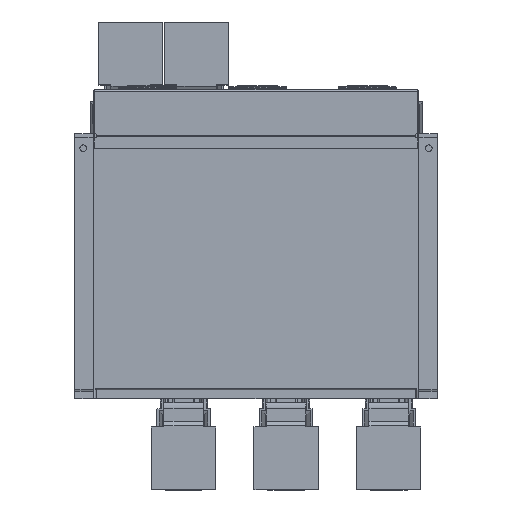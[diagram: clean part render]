
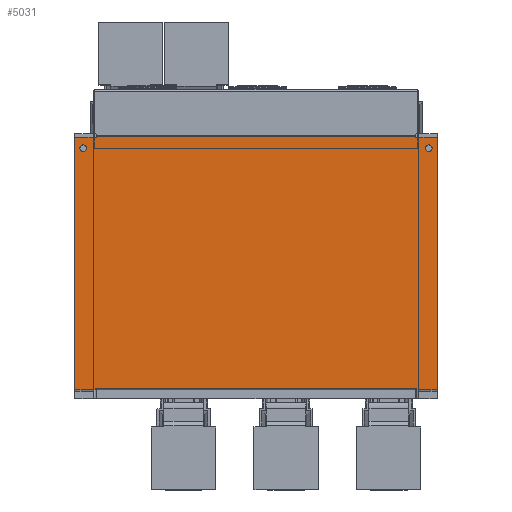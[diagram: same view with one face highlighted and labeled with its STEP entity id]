
A CAD part, top view. The second image highlights one B-rep face of the part: STEP entity #5031.
In plain terms, the highlighted planar face has unit normal (0, 0, 1).
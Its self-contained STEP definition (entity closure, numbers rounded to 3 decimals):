
#4556=DIRECTION('',(0.,1.,0.));
#4557=VECTOR('',#4556,2.);
#4558=CARTESIAN_POINT('',(219.4,-181.,-78.5));
#4559=LINE('',#4558,#4557);
#4560=CARTESIAN_POINT('',(218.9,-179.,-78.5));
#4561=DIRECTION('',(0.,0.,1.));
#4562=DIRECTION('',(1.,0.,0.));
#4563=AXIS2_PLACEMENT_3D('',#4560,#4561,#4562);
#4565=CARTESIAN_POINT('',(-218.9,-179.,-78.5));
#4566=DIRECTION('',(0.,0.,1.));
#4567=DIRECTION('',(1.,0.,0.));
#4568=AXIS2_PLACEMENT_3D('',#4565,#4566,#4567);
#4570=DIRECTION('',(0.,-1.,0.));
#4571=VECTOR('',#4570,2.);
#4572=CARTESIAN_POINT('',(-219.4,-179.,-78.5));
#4573=LINE('',#4572,#4571);
#4574=DIRECTION('',(-1.,0.,0.));
#4575=VECTOR('',#4574,2.4);
#4576=CARTESIAN_POINT('',(-219.4,-181.,-78.5));
#4577=LINE('',#4576,#4575);
#4578=DIRECTION('',(1.,0.,0.));
#4579=VECTOR('',#4578,29.25);
#4580=CARTESIAN_POINT('',(-247.5,164.,-78.5));
#4581=LINE('',#4580,#4579);
#4582=DIRECTION('',(0.,1.,0.));
#4583=VECTOR('',#4582,2.);
#4584=CARTESIAN_POINT('',(-218.25,164.,-78.5));
#4585=LINE('',#4584,#4583);
#4586=DIRECTION('',(0.,-1.,0.));
#4587=VECTOR('',#4586,2.);
#4588=CARTESIAN_POINT('',(218.25,166.,-78.5));
#4589=LINE('',#4588,#4587);
#4590=DIRECTION('',(1.,0.,0.));
#4591=VECTOR('',#4590,29.25);
#4592=CARTESIAN_POINT('',(218.25,164.,-78.5));
#4593=LINE('',#4592,#4591);
#4594=DIRECTION('',(-1.,0.,0.));
#4595=VECTOR('',#4594,2.4);
#4596=CARTESIAN_POINT('',(221.8,-181.,-78.5));
#4597=LINE('',#4596,#4595);
#4608=DIRECTION('',(1.,0.,0.));
#4609=VECTOR('',#4608,436.8);
#4610=CARTESIAN_POINT('',(-218.4,-179.,-78.5));
#4611=LINE('',#4610,#4609);
#4657=DIRECTION('',(1.,0.,0.));
#4658=VECTOR('',#4657,25.7);
#4659=CARTESIAN_POINT('',(221.8,-181.,-78.5));
#4660=LINE('',#4659,#4658);
#4666=DIRECTION('',(1.,0.,0.));
#4667=VECTOR('',#4666,25.7);
#4668=CARTESIAN_POINT('',(-247.5,-181.,-78.5));
#4669=LINE('',#4668,#4667);
#4754=DIRECTION('',(0.,1.,0.));
#4755=VECTOR('',#4754,345.);
#4756=CARTESIAN_POINT('',(-247.5,-181.,-78.5));
#4757=LINE('',#4756,#4755);
#4828=DIRECTION('',(0.,1.,0.));
#4829=VECTOR('',#4828,345.);
#4830=CARTESIAN_POINT('',(247.5,-181.,-78.5));
#4831=LINE('',#4830,#4829);
#4872=DIRECTION('',(-1.,0.,0.));
#4873=VECTOR('',#4872,436.5);
#4874=CARTESIAN_POINT('',(218.25,166.,-78.5));
#4875=LINE('',#4874,#4873);
#4876=CARTESIAN_POINT('',(247.5,-181.,-78.5));
#4878=VERTEX_POINT('',#4876);
#4880=CARTESIAN_POINT('',(-247.5,-181.,-78.5));
#4882=VERTEX_POINT('',#4880);
#4884=CARTESIAN_POINT('',(-218.25,166.,-78.5));
#4885=CARTESIAN_POINT('',(-218.25,164.,-78.5));
#4886=VERTEX_POINT('',#4884);
#4887=VERTEX_POINT('',#4885);
#4888=CARTESIAN_POINT('',(-247.5,164.,-78.5));
#4889=VERTEX_POINT('',#4888);
#4890=CARTESIAN_POINT('',(247.5,164.,-78.5));
#4891=CARTESIAN_POINT('',(218.25,164.,-78.5));
#4892=VERTEX_POINT('',#4890);
#4893=VERTEX_POINT('',#4891);
#4894=CARTESIAN_POINT('',(218.25,166.,-78.5));
#4895=VERTEX_POINT('',#4894);
#4936=CARTESIAN_POINT('',(221.8,-181.,-78.5));
#4938=VERTEX_POINT('',#4936);
#4940=CARTESIAN_POINT('',(-221.8,-181.,-78.5));
#4942=VERTEX_POINT('',#4940);
#4952=CARTESIAN_POINT('',(-219.4,-181.,-78.5));
#4953=CARTESIAN_POINT('',(-219.4,-179.,-78.5));
#4954=VERTEX_POINT('',#4952);
#4955=VERTEX_POINT('',#4953);
#4960=CARTESIAN_POINT('',(219.4,-181.,-78.5));
#4961=CARTESIAN_POINT('',(219.4,-179.,-78.5));
#4962=VERTEX_POINT('',#4960);
#4963=VERTEX_POINT('',#4961);
#4984=CARTESIAN_POINT('',(-218.4,-179.,-78.5));
#4985=VERTEX_POINT('',#4984);
#4988=CARTESIAN_POINT('',(218.4,-179.,-78.5));
#4989=VERTEX_POINT('',#4988);
#4992=CARTESIAN_POINT('',(247.5,-181.,-78.5));
#4993=DIRECTION('',(0.,0.,1.));
#4994=DIRECTION('',(0.,1.,0.));
#4995=AXIS2_PLACEMENT_3D('',#4992,#4993,#4994);
#4996=PLANE('',#4995);
#4998=ORIENTED_EDGE('',*,*,#4997,.T.);
#5000=ORIENTED_EDGE('',*,*,#4999,.T.);
#5002=ORIENTED_EDGE('',*,*,#5001,.F.);
#5004=ORIENTED_EDGE('',*,*,#5003,.T.);
#5006=ORIENTED_EDGE('',*,*,#5005,.T.);
#5008=ORIENTED_EDGE('',*,*,#5007,.T.);
#5010=ORIENTED_EDGE('',*,*,#5009,.F.);
#5012=ORIENTED_EDGE('',*,*,#5011,.T.);
#5014=ORIENTED_EDGE('',*,*,#5013,.T.);
#5016=ORIENTED_EDGE('',*,*,#5015,.T.);
#5018=ORIENTED_EDGE('',*,*,#5017,.F.);
#5020=ORIENTED_EDGE('',*,*,#5019,.T.);
#5022=ORIENTED_EDGE('',*,*,#5021,.T.);
#5024=ORIENTED_EDGE('',*,*,#5023,.F.);
#5026=ORIENTED_EDGE('',*,*,#5025,.F.);
#5028=ORIENTED_EDGE('',*,*,#5027,.T.);
#5029=EDGE_LOOP('',(#4998,#5000,#5002,#5004,#5006,#5008,#5010,#5012,#5014,#5016,
#5018,#5020,#5022,#5024,#5026,#5028));
#5030=FACE_OUTER_BOUND('',#5029,.F.);
#5031=ADVANCED_FACE('',(#5030),#4996,.T.);
#4564=CIRCLE('',#4563,0.5);
#4569=CIRCLE('',#4568,0.5);
#4997=EDGE_CURVE('',#4962,#4963,#4559,.T.);
#4999=EDGE_CURVE('',#4963,#4989,#4564,.T.);
#5001=EDGE_CURVE('',#4985,#4989,#4611,.T.);
#5003=EDGE_CURVE('',#4985,#4955,#4569,.T.);
#5005=EDGE_CURVE('',#4955,#4954,#4573,.T.);
#5007=EDGE_CURVE('',#4954,#4942,#4577,.T.);
#5009=EDGE_CURVE('',#4882,#4942,#4669,.T.);
#5011=EDGE_CURVE('',#4882,#4889,#4757,.T.);
#5013=EDGE_CURVE('',#4889,#4887,#4581,.T.);
#5015=EDGE_CURVE('',#4887,#4886,#4585,.T.);
#5017=EDGE_CURVE('',#4895,#4886,#4875,.T.);
#5019=EDGE_CURVE('',#4895,#4893,#4589,.T.);
#5021=EDGE_CURVE('',#4893,#4892,#4593,.T.);
#5023=EDGE_CURVE('',#4878,#4892,#4831,.T.);
#5025=EDGE_CURVE('',#4938,#4878,#4660,.T.);
#5027=EDGE_CURVE('',#4938,#4962,#4597,.T.);
